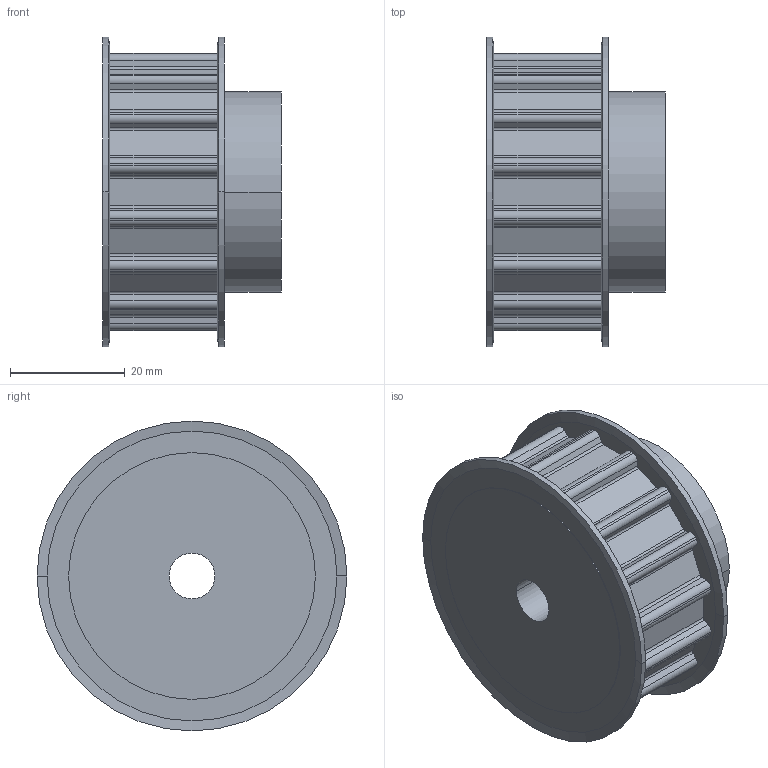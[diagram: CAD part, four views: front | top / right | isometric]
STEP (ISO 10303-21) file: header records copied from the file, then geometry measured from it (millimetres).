
FILE_DESCRIPTION( ( '' ), '1' );
FILE_NAME( 'C:/Users/Stangenbergd/Documents/CAD_Step/1/16821600.stp', '2021-10-19T09:43:36', ( '' ), ( '' ), ' ', ' ', ' ' );
FILE_SCHEMA( ( 'CONFIG_CONTROL_DESIGN' ) );
Length unit declared in the file: millimetre
Products named in the file (1): 1
Bounding box: 31.1 x 54 x 54 mm (x, y, z)
Volume: 44058.2 mm3; surface area: 11483.1 mm2
Topology: 1 solids, 1 shells, 155 faces, 436 edges, 288 vertices
Faces by surface type: cylinder 92, plane 55, cone 8
Entity records: 5126 total; most frequent: DIRECTION 940, CARTESIAN_POINT 880, ORIENTED_EDGE 872, EDGE_CURVE 436, AXIS2_PLACEMENT_3D 348, VERTEX_POINT 288, LINE 244, VECTOR 244
